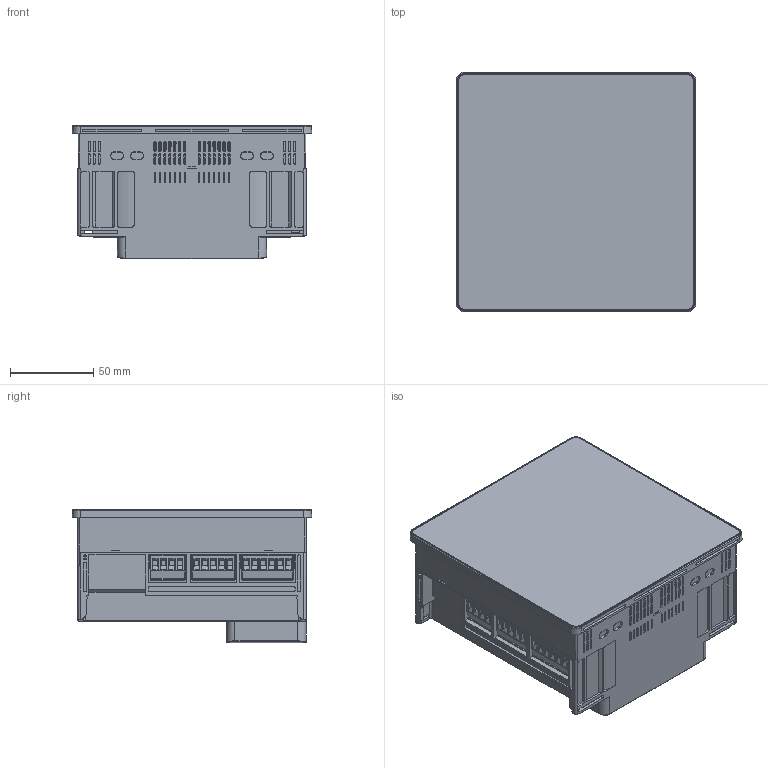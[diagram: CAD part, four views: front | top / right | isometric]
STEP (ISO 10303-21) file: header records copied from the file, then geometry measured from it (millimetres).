
FILE_DESCRIPTION(/* description */ (''),/* implementation_level */ '2;1');
FILE_NAME(/* name */ 'PQE 3D drawing file.step',/* time_stamp */ '2026-07-02T16:27:47+02:00',/* author */ (''),/* organization */ (''),/* preprocessor_version */ 'ST-DEVELOPER v20.1',/* originating_system */ 'Autodesk Translation Framework v15.8.0.0',/* authorisation */ '');
FILE_SCHEMA (('AUTOMOTIVE_DESIGN { 1 0 10303 214 3 1 1 }'));
Products named in the file (1): Sfere820A
Bounding box: 144 x 144 x 80.1 mm (x, y, z)
Volume: 1157670.2 mm3; surface area: 144498.2 mm2
Topology: 1 solids, 4 shells, 3015 faces, 7948 edges, 5171 vertices
Faces by surface type: plane 2096, cylinder 501, bspline 340, cone 41, torus 34, sphere 3
Full cylindrical faces by diameter (mm): 0.609 x4, 2.5 x2, 3.783 x30, 3.8 x2, 3.9 x2, 4 x32, 4.6 x4, 5.2 x4
Entity records: 136797 total; most frequent: CARTESIAN_POINT 61992, ORIENTED_EDGE 15886, DIRECTION 13948, EDGE_CURVE 7943, LINE 5868, VECTOR 5868, VERTEX_POINT 5171, AXIS2_PLACEMENT_3D 4040
